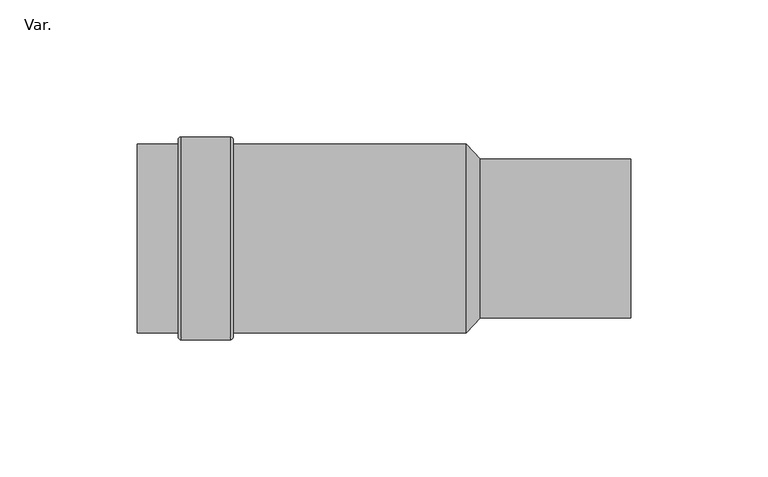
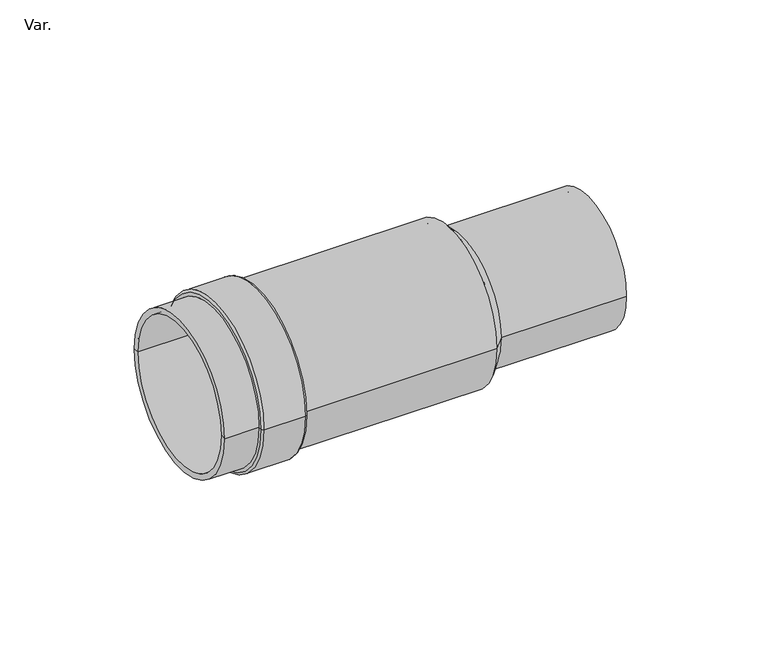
"""IFC4 building model written with IfcOpenShell, lengths in millimetres: pipe fitting geometry, PlastigamaWavin_Unionesdetubería_Biax y UZ_ZNoUsarAdaptadorEnsamblado : Var.."""

from ifc_helpers import new_model, si_unit, point, frame, origin, place, context, project, spatial, polyline, circle_curve, ellipse_curve, trimmed, source, transform, mapped, element, save
from ifc_brep_helpers import plane_surface, cylinder_surface, revolved_surface, advanced_brep


def var_cbd6d4a9(model_context):
    return source(origin(), model_context, "Body", "AdvancedBrep", [
        advanced_brep(
        [(-125.0, -34.5, 0.0), (-125.0, 34.5, 0.0), (-110.0, 34.5, 0.0), (-110.0, -34.5, 0.0), (-125.0, -32.0, 0.0), (-125.0, 32.0, 0.0), (-5.0, -32.0, 0.0), (-5.0, 32.0, 0.0), (-5.0, -26.5, 0.0), (-5.0, 26.5, 0.0), (55.0, -26.5, 0.0), (55.0, 26.5, 0.0), (55.0, -29.0, 0.0), (55.0, 29.0, 0.0), (0.0, -29.0, 0.0), (0.0, 29.0, 0.0), (-5.0, -34.5, 0.0), (-5.0, 34.5, 0.0), (-90.0, -34.5, 0.0), (-90.0, 34.5, 0.0), (-90.0, -36.0, 0.0), (-90.0, 36.0, 0.0), (-109.0, -37.0, 0.0), (-109.0, 37.0, 0.0), (-91.0, 37.0, 0.0), (-91.0, -37.0, 0.0), (-110.0, 36.0, 0.0), (-110.0, -36.0, 0.0)],
        [
            (0, 1, circle_curve(frame((-125.0, 0.0, 0.0), z_axis=(1.0, 0.0, 0.0), x_axis=(0.0, 1.0, 0.0)), 34.5)),
            (1, 2),
            (2, 3, circle_curve(frame((-110.0, 0.0, 0.0), z_axis=(-1.0, 0.0, 0.0), x_axis=(0.0, 1.0, 0.0)), 34.5)),
            (3, 0),
            (1, 0, circle_curve(frame((-125.0, 0.0, 0.0), z_axis=(1.0, 0.0, 0.0), x_axis=(0.0, 1.0, 0.0)), 34.5)),
            (3, 2, circle_curve(frame((-110.0, 0.0, 0.0), z_axis=(-1.0, 0.0, 0.0), x_axis=(0.0, 1.0, 0.0)), 34.5)),
            (4, 5, circle_curve(frame((-125.0, 0.0, 0.0), z_axis=(1.0, 0.0, 0.0), x_axis=(0.0, 1.0, 0.0)), 32.0)),
            (5, 1),
            (0, 4),
            (5, 4, circle_curve(frame((-125.0, 0.0, 0.0), z_axis=(1.0, 0.0, 0.0), x_axis=(0.0, 1.0, 0.0)), 32.0)),
            (6, 7, circle_curve(frame((-5.0, 0.0, 0.0), z_axis=(1.0, 0.0, 0.0), x_axis=(0.0, 1.0, 0.0)), 32.0)),
            (7, 5),
            (4, 6),
            (7, 6, circle_curve(frame((-5.0, 0.0, 0.0), z_axis=(1.0, 0.0, 0.0), x_axis=(0.0, 1.0, 0.0)), 32.0)),
            (8, 9, circle_curve(frame((-5.0, 0.0, 0.0), z_axis=(1.0, 0.0, 0.0), x_axis=(0.0, 1.0, 0.0)), 26.5)),
            (9, 7),
            (6, 8),
            (9, 8, circle_curve(frame((-5.0, 0.0, 0.0), z_axis=(1.0, 0.0, 0.0), x_axis=(0.0, 1.0, 0.0)), 26.5)),
            (10, 11, circle_curve(frame((55.0, 0.0, 0.0), z_axis=(1.0, 0.0, 0.0), x_axis=(0.0, 1.0, 0.0)), 26.5)),
            (11, 9),
            (8, 10),
            (11, 10, circle_curve(frame((55.0, 0.0, 0.0), z_axis=(1.0, 0.0, 0.0), x_axis=(0.0, 1.0, 0.0)), 26.5)),
            (12, 13, circle_curve(frame((55.0, 0.0, 0.0), z_axis=(1.0, 0.0, 0.0), x_axis=(0.0, 1.0, 0.0)), 29.0)),
            (13, 11),
            (10, 12),
            (13, 12, circle_curve(frame((55.0, 0.0, 0.0), z_axis=(1.0, 0.0, 0.0), x_axis=(0.0, 1.0, 0.0)), 29.0)),
            (14, 15, circle_curve(frame((0.0, 0.0, 0.0), z_axis=(1.0, 0.0, 0.0), x_axis=(0.0, 1.0, 0.0)), 29.0)),
            (15, 13),
            (12, 14),
            (15, 14, circle_curve(frame((0.0, 0.0, 0.0), z_axis=(1.0, 0.0, 0.0), x_axis=(0.0, 1.0, 0.0)), 29.0)),
            (16, 17, circle_curve(frame((-5.0, 0.0, 0.0), z_axis=(1.0, 0.0, 0.0), x_axis=(0.0, 1.0, 0.0)), 34.5)),
            (17, 15),
            (14, 16),
            (17, 16, circle_curve(frame((-5.0, 0.0, 0.0), z_axis=(1.0, 0.0, 0.0), x_axis=(0.0, 1.0, 0.0)), 34.5)),
            (18, 19, circle_curve(frame((-90.0, 0.0, 0.0), z_axis=(1.0, 0.0, 0.0), x_axis=(0.0, 1.0, 0.0)), 34.5)),
            (19, 17),
            (16, 18),
            (19, 18, circle_curve(frame((-90.0, 0.0, 0.0), z_axis=(1.0, 0.0, 0.0), x_axis=(0.0, 1.0, 0.0)), 34.5)),
            (20, 21, circle_curve(frame((-90.0, 0.0, 0.0), z_axis=(1.0, 0.0, 0.0), x_axis=(0.0, 1.0, 0.0)), 36.0)),
            (21, 19),
            (18, 20),
            (21, 20, circle_curve(frame((-90.0, 0.0, 0.0), z_axis=(1.0, 0.0, 0.0), x_axis=(0.0, 1.0, 0.0)), 36.0)),
            (22, 23, circle_curve(frame((-109.0, 0.0, 0.0), z_axis=(1.0, 0.0, 0.0), x_axis=(0.0, 1.0, 0.0)), 37.0)),
            (23, 24),
            (24, 25, circle_curve(frame((-91.0, 0.0, 0.0), z_axis=(-1.0, 0.0, 0.0), x_axis=(0.0, 1.0, 0.0)), 37.0)),
            (25, 22),
            (23, 22, circle_curve(frame((-109.0, 0.0, 0.0), z_axis=(1.0, 0.0, 0.0), x_axis=(0.0, 1.0, 0.0)), 37.0)),
            (25, 24, circle_curve(frame((-91.0, 0.0, 0.0), z_axis=(-1.0, 0.0, 0.0), x_axis=(0.0, 1.0, 0.0)), 37.0)),
            (2, 26),
            (26, 27, circle_curve(frame((-110.0, 0.0, 0.0), z_axis=(-1.0, 0.0, 0.0), x_axis=(0.0, 1.0, 0.0)), 36.0)),
            (27, 3),
            (27, 26, circle_curve(frame((-110.0, 0.0, 0.0), z_axis=(-1.0, 0.0, 0.0), x_axis=(0.0, 1.0, 0.0)), 36.0)),
            (24, 21, circle_curve(frame((-91.0, 36.0, 0.0), z_axis=(0.0, 0.0, -1.0), x_axis=(1.0, 0.0, 0.0)), 1.0)),
            (20, 25, circle_curve(frame((-91.0, -36.0, 0.0), z_axis=(0.0, 0.0, -1.0), x_axis=(1.0, 0.0, 0.0)), 1.0)),
            (26, 23, circle_curve(frame((-109.0, 36.0, 0.0), z_axis=(0.0, 0.0, -1.0), x_axis=(1.0, 0.0, 0.0)), 1.0)),
            (22, 27, circle_curve(frame((-109.0, -36.0, 0.0), z_axis=(0.0, 0.0, -1.0), x_axis=(1.0, 0.0, 0.0)), 1.0)),
        ],
        [
            cylinder_surface(frame((-125.0, 0.0, 0.0), z_axis=(-1.0, 0.0, 0.0), x_axis=(0.0, 1.0, 0.0)), 34.5),
            plane_surface(frame((-125.0, 0.0, 0.0), z_axis=(-1.0, 0.0, 0.0), x_axis=(0.0, 1.0, 0.0))),
            revolved_surface(polyline([(-125.0, 32.0, 0.0), (-5.0, 32.0, 0.0)]), (-125.0, 0.0, 0.0), (-1.0, 0.0, 0.0)),
            plane_surface(frame((-5.0, 0.0, 0.0), z_axis=(-1.0, 0.0, 0.0), x_axis=(0.0, 1.0, 0.0))),
            revolved_surface(polyline([(-5.0, 26.5, 0.0), (55.0, 26.5, 0.0)]), (-125.0, 0.0, 0.0), (-1.0, 0.0, 0.0)),
            plane_surface(frame((55.0, 0.0, 0.0), z_axis=(1.0, 0.0, 0.0), x_axis=(0.0, 1.0, 0.0))),
            cylinder_surface(frame((-125.0, 0.0, 0.0), z_axis=(-1.0, 0.0, 0.0), x_axis=(0.0, 1.0, 0.0)), 29.0),
            revolved_surface(polyline([(0.0, 29.0, 0.0), (-5.0, 34.5, 0.0)]), (-125.0, 0.0, 0.0), (-1.0, 0.0, 0.0)),
            plane_surface(frame((-90.0, 0.0, 0.0), z_axis=(1.0, 0.0, 0.0), x_axis=(0.0, 1.0, 0.0))),
            cylinder_surface(frame((-125.0, 0.0, 0.0), z_axis=(-1.0, 0.0, 0.0), x_axis=(0.0, 1.0, 0.0)), 37.0),
            plane_surface(frame((-110.0, 0.0, 0.0), z_axis=(-1.0, 0.0, 0.0), x_axis=(0.0, 1.0, 0.0))),
            revolved_surface(trimmed(ellipse_curve(frame((-91.0, 36.0, 0.0), z_axis=(0.0, 0.0, 1.0), x_axis=(1.0, 0.0, 0.0)), 1.0, 1.0), [point((-90.0, 36.0, 0.0))], [point((-91.0, 37.0, 0.0))], True, "CARTESIAN"), (-125.0, 0.0, 0.0), (-1.0, 0.0, 0.0)),
            revolved_surface(trimmed(ellipse_curve(frame((-109.0, 36.0, 0.0), z_axis=(0.0, 0.0, 1.0), x_axis=(1.0, 0.0, 0.0)), 1.0, 1.0), [point((-109.0, 37.0, 0.0))], [point((-110.0, 36.0, 0.0))], True, "CARTESIAN"), (-125.0, 0.0, 0.0), (-1.0, 0.0, 0.0)),
        ],
        [
            (0, [[1, 2, 3, 4]]),
            (0, [[5, -4, 6, -2]]),
            (1, [[7, 8, -1, 9]]),
            (1, [[10, -9, -5, -8]]),
            (2, [[11, 12, -7, 13]]),
            (2, [[14, -13, -10, -12]]),
            (3, [[15, 16, -11, 17]]),
            (3, [[18, -17, -14, -16]]),
            (4, [[19, 20, -15, 21]]),
            (4, [[22, -21, -18, -20]]),
            (5, [[23, 24, -19, 25]]),
            (5, [[26, -25, -22, -24]]),
            (6, [[27, 28, -23, 29]]),
            (6, [[30, -29, -26, -28]]),
            (7, [[31, 32, -27, 33]]),
            (7, [[34, -33, -30, -32]]),
            (0, [[35, 36, -31, 37]]),
            (0, [[38, -37, -34, -36]]),
            (8, [[39, 40, -35, 41]]),
            (8, [[42, -41, -38, -40]]),
            (9, [[43, 44, 45, 46]]),
            (9, [[47, -46, 48, -44]]),
            (10, [[-3, 49, 50, 51]]),
            (10, [[-6, -51, 52, -49]]),
            (11, [[-45, 53, -39, 54]]),
            (11, [[-48, -54, -42, -53]]),
            (12, [[-50, 55, -43, 56]]),
            (12, [[-52, -56, -47, -55]]),
        ],
    ),
    ])


if __name__ == "__main__":
    model = new_model("IFC4")
    model_context = context("Model", 3, world=origin())
    ifc_project = project(units=[si_unit("LENGTHUNIT", "METRE", prefix="MILLI")], contexts=[model_context])
    site = spatial("IfcSite", under=ifc_project)
    building = spatial("IfcBuilding", under=site)
    placement = place(None, origin())
    var_shape = var_cbd6d4a9(model_context)
    element("IfcPipeFitting", 1, ObjectType="PlastigamaWavin_Unionesdetubería_Biax y UZ_ZNoUsarAdaptadorEnsamblado : Var.", at=placement, inside=building, context=model_context, shape_type="MappedRepresentation", body=[
        mapped(var_shape, transform((0.0, 0.0, 0.0), x_axis=(1.0, 0.0, 0.0), y_axis=(0.0, 1.0, 0.0), z_axis=(0.0, 0.0, 1.0))),
    ])
    save(model, "model.ifc")
